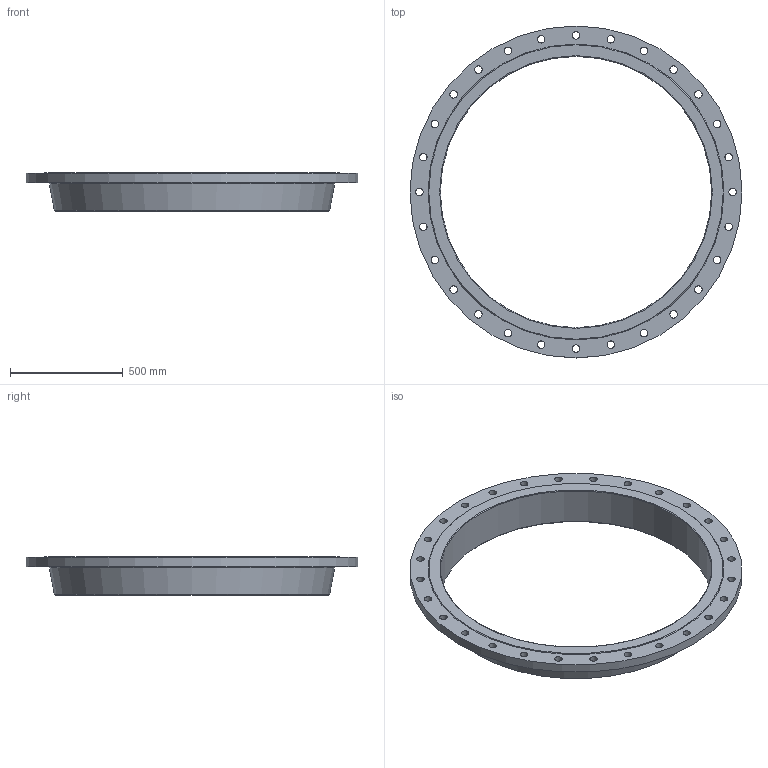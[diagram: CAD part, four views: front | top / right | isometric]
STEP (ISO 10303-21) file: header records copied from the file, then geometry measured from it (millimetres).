
FILE_DESCRIPTION(/* description */ (''),/* implementation_level */ '2;1');
FILE_NAME(/* name */ 'C:\Users\D\Documents\Inventor\HP\JIS\フランジ\水道用フランジF12\RF\ffws_rf_1200_2.stp',/* time_stamp */ '2024-08-28T10:14:47+09:00',/* author */ ('D'),/* organization */ (''),/* preprocessor_version */ 'ST-DEVELOPER v18',/* originating_system */ 'Autodesk Inventor 2020',/* authorisation */ '');
FILE_SCHEMA (('AUTOMOTIVE_DESIGN { 1 0 10303 214 3 1 1 }'));
Length unit declared in the file: millimetre
Products named in the file (1): ffws_rf_80
Bounding box: 1470 x 1470 x 170 mm (x, y, z)
Volume: 32044381 mm3; surface area: 2417040.3 mm2
Topology: 1 solids, 1 shells, 39 faces, 138 edges, 103 vertices
Faces by surface type: cylinder 30, plane 4, cone 3, torus 2
Full cylindrical faces by diameter (mm): 33 x28, 1201.2 x1, 1470 x1
Entity records: 1758 total; most frequent: DIRECTION 323, CARTESIAN_POINT 281, ORIENTED_EDGE 276, AXIS2_PLACEMENT_3D 145, EDGE_CURVE 138, CIRCLE 105, VERTEX_POINT 103, EDGE_LOOP 99
